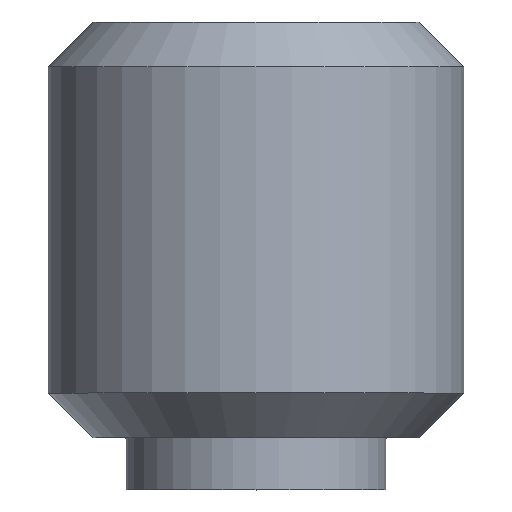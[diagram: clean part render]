
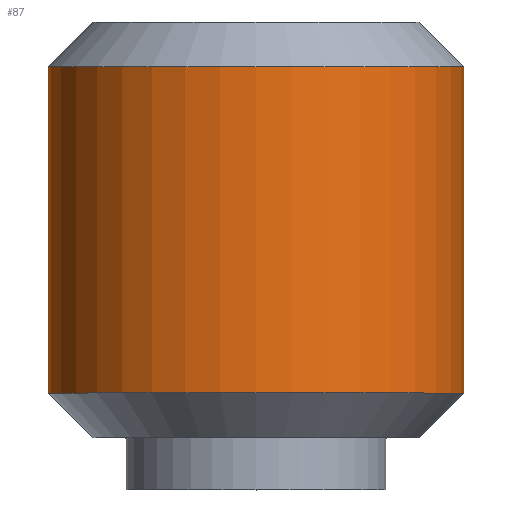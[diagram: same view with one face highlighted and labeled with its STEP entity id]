
A CAD part, top view. The second image highlights one B-rep face of the part: STEP entity #87.
In plain terms, the highlighted cylindrical face has radius 2 mm (diameter 4 mm), a full revolution.
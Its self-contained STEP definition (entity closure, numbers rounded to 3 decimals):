
#87 = ADVANCED_FACE( '', ( #118, #119 ), #120, .T. );
#118 = FACE_OUTER_BOUND( '', #152, .T. );
#119 = FACE_OUTER_BOUND( '', #153, .T. );
#120 = CYLINDRICAL_SURFACE( '', #154, 2. );
#152 = EDGE_LOOP( '', ( #238 ) );
#153 = EDGE_LOOP( '', ( #239 ) );
#154 = AXIS2_PLACEMENT_3D( '', #240, #241, #242 );
#238 = ORIENTED_EDGE( '', *, *, #270, .F. );
#239 = ORIENTED_EDGE( '', *, *, #271, .T. );
#240 = CARTESIAN_POINT( '', ( 0., 0., 0. ) );
#241 = DIRECTION( '', ( 0., 1., 0. ) );
#242 = DIRECTION( '', ( 0., 0., -1. ) );
#270 = EDGE_CURVE( '', #310, #310, #311, .T. );
#271 = EDGE_CURVE( '', #312, #312, #313, .T. );
#310 = VERTEX_POINT( '', #370 );
#311 = CIRCLE( '', #371, 2. );
#312 = VERTEX_POINT( '', #372 );
#313 = CIRCLE( '', #373, 2. );
#370 = CARTESIAN_POINT( '', ( 0., 0.93, -2. ) );
#371 = AXIS2_PLACEMENT_3D( '', #404, #405, #406 );
#372 = CARTESIAN_POINT( '', ( 0., 4.071, -2. ) );
#373 = AXIS2_PLACEMENT_3D( '', #407, #408, #409 );
#404 = CARTESIAN_POINT( '', ( 0., 0.93, 0. ) );
#405 = DIRECTION( '', ( 0., -1., 0. ) );
#406 = DIRECTION( '', ( 0., 0., -1. ) );
#407 = CARTESIAN_POINT( '', ( 0., 4.071, 0. ) );
#408 = DIRECTION( '', ( 0., -1., 0. ) );
#409 = DIRECTION( '', ( 0., 0., -1. ) );
